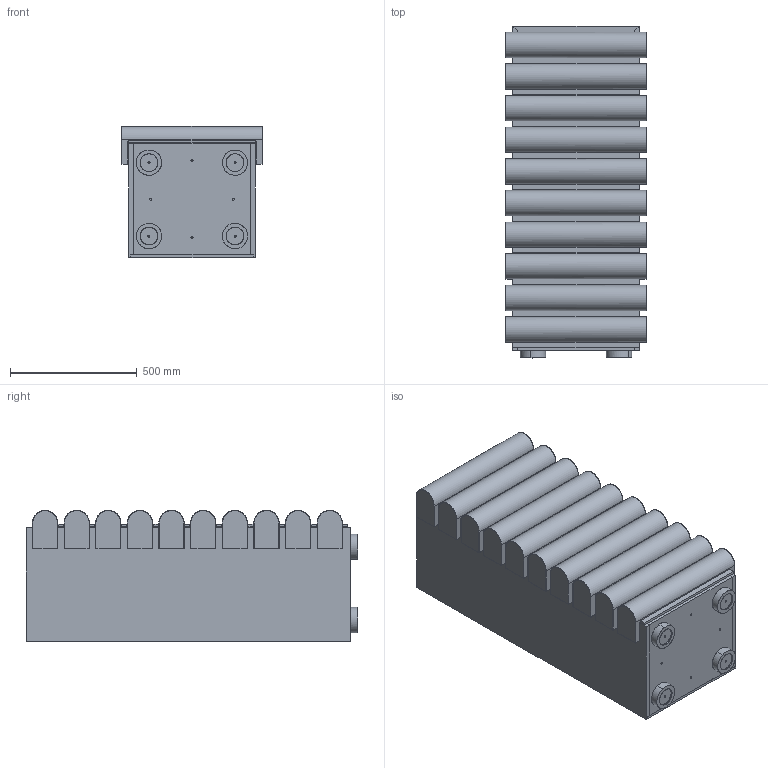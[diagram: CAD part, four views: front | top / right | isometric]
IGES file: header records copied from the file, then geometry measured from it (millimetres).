
Start section: SolidWorks IGES file using analytic representation for surfaces
Global section: file name: /Users/franzolinalessandro/Desktop/MENHIR_GONG_STORET/STORET/3D/004239.igs; preprocessor: Trout Lake IGES 012 Dec  4 2019; date: 201218.110042; units: millimetre
Bounding box: 556 x 1311.5 x 517.99 mm (x, y, z)
Surface area: 14751511.3 mm2 (no closed solid volume)
Topology: 0 solids, 0 shells, 1971 faces, 21698 edges, 21618 vertices
Faces by surface type: bspline 1971
